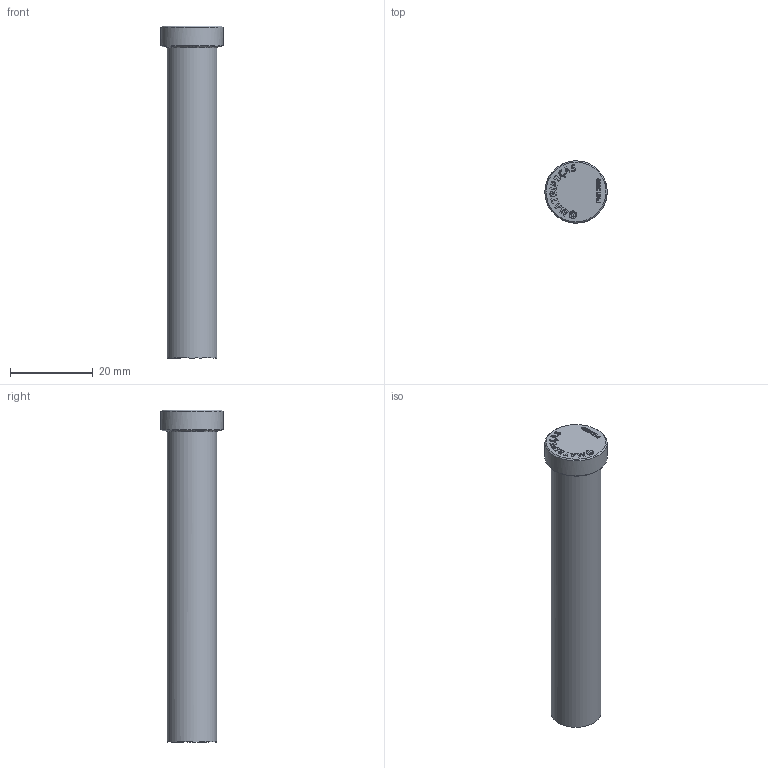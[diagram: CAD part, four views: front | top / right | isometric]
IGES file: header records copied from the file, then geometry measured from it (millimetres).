
Start section: C
Global section: file name: PNI12080.igs; native system: By Siemens PLM Incorporated; preprocessor: XPlus GENERIC/IGES 18.0.17; author: Author; organization: Title; date: 20240726.165303; units: millimetre
Bounding box: 14.99 x 14.99 x 80 mm (x, y, z)
Volume: 9401.7 mm3; surface area: 3412.8 mm2
Topology: 1 solids, 1 shells, 248 faces, 646 edges, 430 vertices
Faces by surface type: bspline 248
